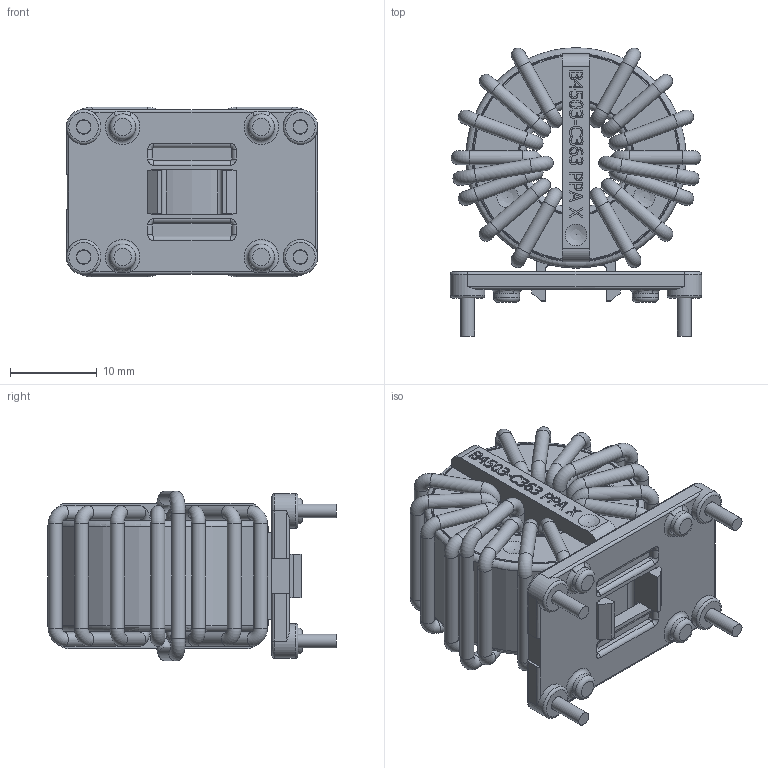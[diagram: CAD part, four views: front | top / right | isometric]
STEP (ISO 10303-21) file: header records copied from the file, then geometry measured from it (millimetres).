
FILE_DESCRIPTION(/* description */ (''),/* implementation_level */ '2;1');
FILE_NAME(/* name */ 'G:\KB-FTKon\CAD\Inventor\Bauelementnummer\6127-X021\6127-X021_Shrinkwrap_1.stp',/* time_stamp */ '2019-04-30T11:19:15+02:00',/* author */ ('de041100'),/* organization */ (''),/* preprocessor_version */ 'ST-DEVELOPER v17.2',/* originating_system */ 'Autodesk Inventor 2019',/* authorisation */ '');
FILE_SCHEMA (('AUTOMOTIVE_DESIGN { 1 0 10303 214 3 1 1 }'));
Length unit declared in the file: millimetre
Products named in the file (1): 6127-X021_Shrinkwrap_1
Bounding box: 29 x 33.25 x 19.6 mm (x, y, z)
Volume: 8140.6 mm3; surface area: 8661.1 mm2
Topology: 17 solids, 17 shells, 1328 faces, 3741 edges, 2464 vertices
Faces by surface type: plane 552, bspline 435, cylinder 183, torus 140, sphere 14, cone 4
Full cylindrical faces by diameter (mm): 1.6 x64, 1.7 x4, 3 x4, 4 x4, 11.6 x1, 13.2 x1, 23.8 x1, 25.4 x1
Entity records: 48226 total; most frequent: CARTESIAN_POINT 14856, ORIENTED_EDGE 7456, DIRECTION 5384, EDGE_CURVE 3728, VERTEX_POINT 2464, LINE 1900, VECTOR 1900, AXIS2_PLACEMENT_3D 1742
